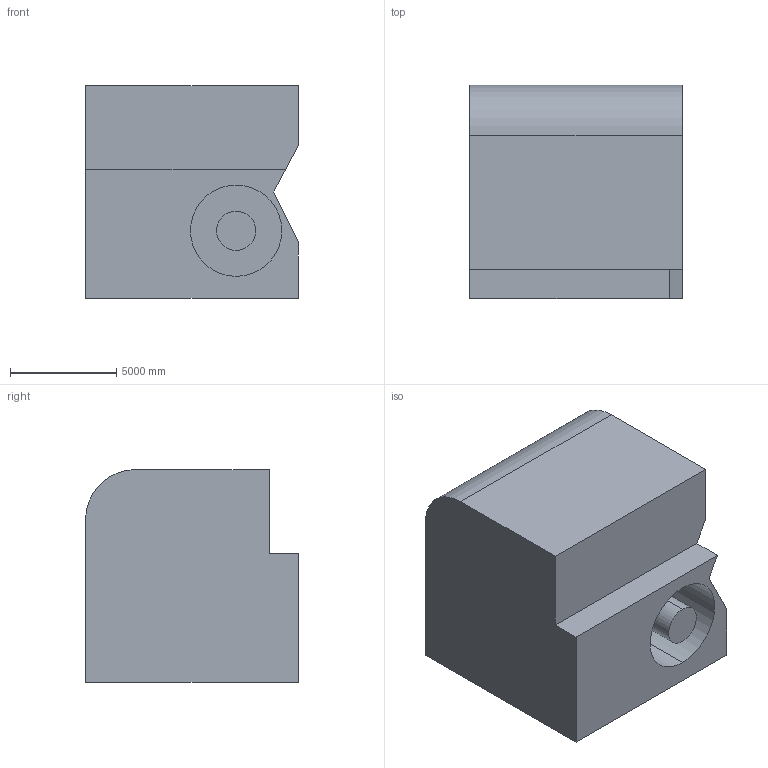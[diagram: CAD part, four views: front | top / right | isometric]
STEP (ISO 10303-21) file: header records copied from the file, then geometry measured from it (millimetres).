
FILE_DESCRIPTION (( 'STEP AP203' ), '1' );
FILE_NAME ('69.STEP', '2022-08-31T11:23:21', ( 'user' ), ( '' ), 'SwSTEP 2.0', 'SolidWorks 2021', '' );
FILE_SCHEMA (( 'CONFIG_CONTROL_DESIGN' ));
Length unit declared in the file: centimetre
Products named in the file (1): 69
Bounding box: 10000 x 10000 x 10000 mm (x, y, z)
Volume: 803302100022 mm3; surface area: 747410624.2 mm2
Topology: 1 solids, 1 shells, 18 faces, 42 edges, 28 vertices
Faces by surface type: plane 13, cylinder 5
Entity records: 593 total; most frequent: DIRECTION 90, CARTESIAN_POINT 89, ORIENTED_EDGE 84, EDGE_CURVE 42, LINE 32, VECTOR 32, AXIS2_PLACEMENT_3D 29, VERTEX_POINT 28
